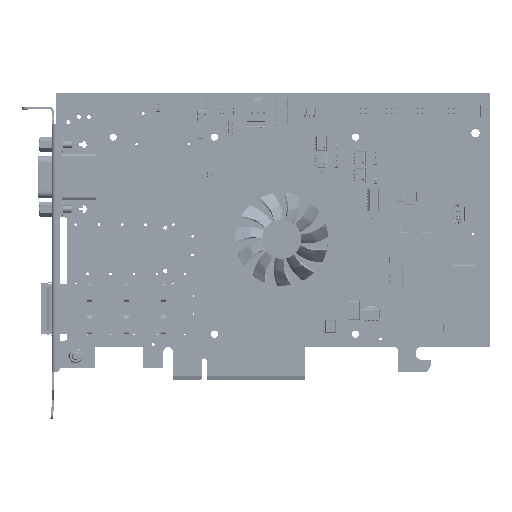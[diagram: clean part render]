
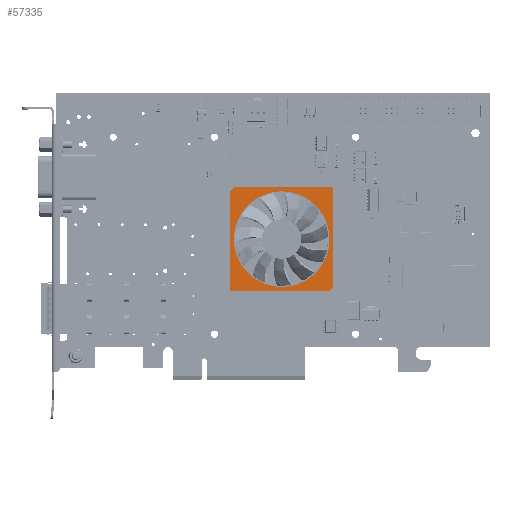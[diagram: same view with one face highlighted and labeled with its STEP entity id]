
A CAD part, top view. The second image highlights one B-rep face of the part: STEP entity #57335.
In plain terms, the highlighted planar face has unit normal (0, 0, 1).
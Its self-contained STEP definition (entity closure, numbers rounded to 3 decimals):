
#57335 = ADVANCED_FACE( '', ( #99512, #99513 ), #99514, .F. );
#99512 = FACE_OUTER_BOUND( '', #139148, .T. );
#99513 = FACE_BOUND( '', #139149, .T. );
#99514 = PLANE( '', #139150 );
#139148 = EDGE_LOOP( '', ( #192396, #192397, #192398, #192399, #192400, #192401 ) );
#139149 = EDGE_LOOP( '', ( #192402 ) );
#139150 = AXIS2_PLACEMENT_3D( '', #192403, #192404, #192405 );
#192396 = ORIENTED_EDGE( '', *, *, #264602, .T. );
#192397 = ORIENTED_EDGE( '', *, *, #264603, .F. );
#192398 = ORIENTED_EDGE( '', *, *, #263463, .T. );
#192399 = ORIENTED_EDGE( '', *, *, #264604, .T. );
#192400 = ORIENTED_EDGE( '', *, *, #264605, .F. );
#192401 = ORIENTED_EDGE( '', *, *, #264606, .T. );
#192402 = ORIENTED_EDGE( '', *, *, #264607, .T. );
#192403 = CARTESIAN_POINT( '', ( 20., 20., 38.4 ) );
#192404 = DIRECTION( '', ( 0., 0., -1. ) );
#192405 = DIRECTION( '', ( 0., -1., 0. ) );
#263463 = EDGE_CURVE( '', #304935, #304936, #304937, .T. );
#264602 = EDGE_CURVE( '', #306680, #306681, #306682, .T. );
#264603 = EDGE_CURVE( '', #304935, #306681, #306683, .T. );
#264604 = EDGE_CURVE( '', #304936, #306684, #306685, .T. );
#264605 = EDGE_CURVE( '', #306686, #306684, #306687, .T. );
#264606 = EDGE_CURVE( '', #306686, #306680, #306688, .T. );
#264607 = EDGE_CURVE( '', #306689, #306689, #306690, .T. );
#304935 = VERTEX_POINT( '', #363003 );
#304936 = VERTEX_POINT( '', #363004 );
#304937 = LINE( '', #363005, #363006 );
#306680 = VERTEX_POINT( '', #365584 );
#306681 = VERTEX_POINT( '', #365585 );
#306682 = LINE( '', #365586, #365587 );
#306683 = LINE( '', #365588, #365589 );
#306684 = VERTEX_POINT( '', #365590 );
#306685 = LINE( '', #365591, #365592 );
#306686 = VERTEX_POINT( '', #365593 );
#306687 = LINE( '', #365594, #365595 );
#306688 = LINE( '', #365596, #365597 );
#306689 = VERTEX_POINT( '', #365598 );
#306690 = CIRCLE( '', #365599, 18.5 );
#363003 = CARTESIAN_POINT( '', ( 18.6, 20., 38.4 ) );
#363004 = CARTESIAN_POINT( '', ( -20., 20., 38.4 ) );
#363005 = CARTESIAN_POINT( '', ( 20., 20., 38.4 ) );
#363006 = VECTOR( '', #411233, 1000. );
#365584 = CARTESIAN_POINT( '', ( 20., -20., 38.4 ) );
#365585 = CARTESIAN_POINT( '', ( 20., 18.6, 38.4 ) );
#365586 = CARTESIAN_POINT( '', ( 20., -20., 38.4 ) );
#365587 = VECTOR( '', #412399, 1000. );
#365588 = CARTESIAN_POINT( '', ( 18.6, 20., 38.4 ) );
#365589 = VECTOR( '', #412400, 1000. );
#365590 = CARTESIAN_POINT( '', ( -20., -18.6, 38.4 ) );
#365591 = CARTESIAN_POINT( '', ( -20., 20., 38.4 ) );
#365592 = VECTOR( '', #412401, 1000. );
#365593 = CARTESIAN_POINT( '', ( -18.6, -20., 38.4 ) );
#365594 = CARTESIAN_POINT( '', ( -18.6, -20., 38.4 ) );
#365595 = VECTOR( '', #412402, 1000. );
#365596 = CARTESIAN_POINT( '', ( -20., -20., 38.4 ) );
#365597 = VECTOR( '', #412403, 1000. );
#365598 = CARTESIAN_POINT( '', ( 0., 18.5, 38.4 ) );
#365599 = AXIS2_PLACEMENT_3D( '', #412404, #412405, #412406 );
#411233 = DIRECTION( '', ( -1., 0., 0. ) );
#412399 = DIRECTION( '', ( 0., 1., 0. ) );
#412400 = DIRECTION( '', ( 0.707, -0.707, 0. ) );
#412401 = DIRECTION( '', ( 0., -1., 0. ) );
#412402 = DIRECTION( '', ( -0.707, 0.707, 0. ) );
#412403 = DIRECTION( '', ( 1., 0., 0. ) );
#412404 = CARTESIAN_POINT( '', ( 0., 0., 38.4 ) );
#412405 = DIRECTION( '', ( 0., 0., -1. ) );
#412406 = DIRECTION( '', ( 0., 1., 0. ) );
